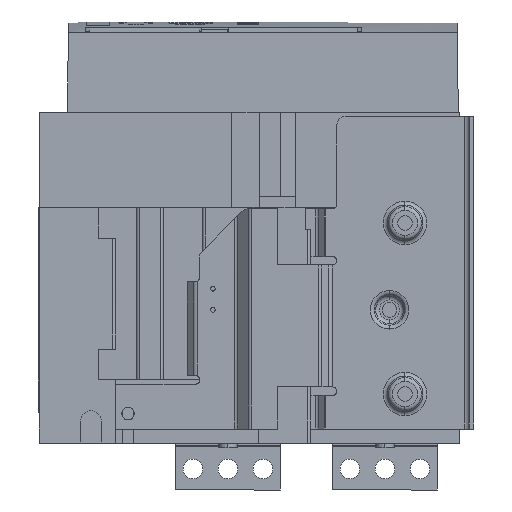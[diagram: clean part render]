
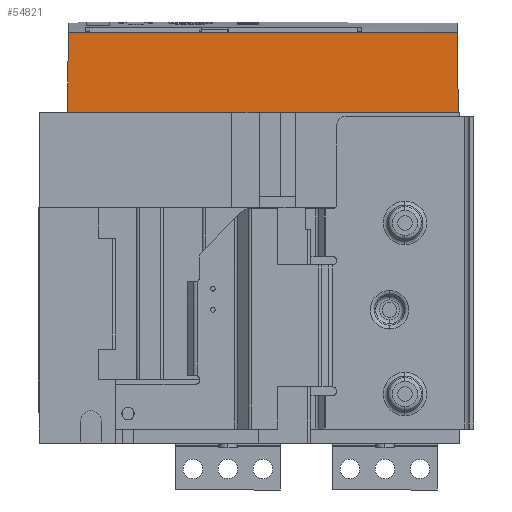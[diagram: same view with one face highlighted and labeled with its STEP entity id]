
A CAD part, left-side view. The second image highlights one B-rep face of the part: STEP entity #54821.
In plain terms, the highlighted planar face has unit normal (-1, 0, 0.014).
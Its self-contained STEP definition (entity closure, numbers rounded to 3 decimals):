
#1078 = DIRECTION ( 'NONE',  ( -0.014, 0.014, -1. ) ) ;
#1637 = CARTESIAN_POINT ( 'NONE',  ( -28.345, 72.376, 483.563 ) ) ;
#5340 = VERTEX_POINT ( 'NONE', #81602 ) ;
#5442 = EDGE_CURVE ( 'NONE', #91966, #21176, #126289, .T. ) ;
#8009 = CARTESIAN_POINT ( 'NONE',  ( -27.554, 72.376, 540.213 ) ) ;
#11194 = CARTESIAN_POINT ( 'NONE',  ( -29.295, 72.376, 415.563 ) ) ;
#12570 = VERTEX_POINT ( 'NONE', #76827 ) ;
#14415 = VECTOR ( 'NONE', #150699, 1000. ) ;
#15729 = ORIENTED_EDGE ( 'NONE', *, *, #99997, .T. ) ;
#17904 = LINE ( 'NONE', #1637, #153928 ) ;
#18831 = DIRECTION ( 'NONE',  ( -0.014, -0.014, -1. ) ) ;
#19138 = EDGE_CURVE ( 'NONE', #91966, #27333, #76573, .T. ) ;
#21176 = VERTEX_POINT ( 'NONE', #132271 ) ;
#21230 = ORIENTED_EDGE ( 'NONE', *, *, #139518, .T. ) ;
#21846 = CARTESIAN_POINT ( 'NONE',  ( -27.554, 351.436, 540.213 ) ) ;
#22533 = VERTEX_POINT ( 'NONE', #29678 ) ;
#22773 = ORIENTED_EDGE ( 'NONE', *, *, #93409, .F. ) ;
#24062 = LINE ( 'NONE', #54517, #74363 ) ;
#24182 = DIRECTION ( 'NONE',  ( 0., 1., 0. ) ) ;
#27333 = VERTEX_POINT ( 'NONE', #54313 ) ;
#27477 = EDGE_LOOP ( 'NONE', ( #43593, #139710, #105253, #81466, #149686, #21230, #22773, #15729, #45587, #85475 ) ) ;
#29678 = CARTESIAN_POINT ( 'NONE',  ( -28.345, 189.77, 483.563 ) ) ;
#32610 = PLANE ( 'NONE',  #106744 ) ;
#34169 = CARTESIAN_POINT ( 'NONE',  ( -29.295, 72.376, 415.563 ) ) ;
#41337 = DIRECTION ( 'NONE',  ( 0., -1., 0. ) ) ;
#43593 = ORIENTED_EDGE ( 'NONE', *, *, #19138, .T. ) ;
#44760 = EDGE_CURVE ( 'NONE', #22533, #71236, #24062, .T. ) ;
#45587 = ORIENTED_EDGE ( 'NONE', *, *, #152683, .T. ) ;
#46479 = FACE_OUTER_BOUND ( 'NONE', #27477, .T. ) ;
#51612 = VECTOR ( 'NONE', #91857, 1000. ) ;
#52850 = CARTESIAN_POINT ( 'NONE',  ( -29.267, 215.349, 417.559 ) ) ;
#53397 = LINE ( 'NONE', #66189, #14415 ) ;
#54313 = CARTESIAN_POINT ( 'NONE',  ( -28.443, 234.228, 476.563 ) ) ;
#54517 = CARTESIAN_POINT ( 'NONE',  ( -29.289, 189.379, 415.996 ) ) ;
#54821 = ADVANCED_FACE ( 'NONE', ( #46479 ), #32610, .T. ) ;
#57859 = VECTOR ( 'NONE', #18831, 1000. ) ;
#59969 = DIRECTION ( 'NONE',  ( -0.014, -0.014, -1. ) ) ;
#64093 = EDGE_CURVE ( 'NONE', #27333, #12570, #53397, .T. ) ;
#65355 = DIRECTION ( 'NONE',  ( -0.014, 0.014, -1. ) ) ;
#66189 = CARTESIAN_POINT ( 'NONE',  ( -28.443, 360.676, 476.563 ) ) ;
#67880 = LINE ( 'NONE', #52850, #153814 ) ;
#68929 = VECTOR ( 'NONE', #1078, 1000. ) ;
#71236 = VERTEX_POINT ( 'NONE', #134062 ) ;
#71753 = CARTESIAN_POINT ( 'NONE',  ( -29.24, 353.122, 419.482 ) ) ;
#72337 = CARTESIAN_POINT ( 'NONE',  ( -28.345, 234.326, 483.563 ) ) ;
#72696 = LINE ( 'NONE', #71753, #68929 ) ;
#74363 = VECTOR ( 'NONE', #89436, 1000. ) ;
#76573 = LINE ( 'NONE', #151123, #57859 ) ;
#76827 = CARTESIAN_POINT ( 'NONE',  ( -28.443, 214.525, 476.563 ) ) ;
#77283 = CARTESIAN_POINT ( 'NONE',  ( -28.345, 72.376, 483.563 ) ) ;
#80269 = DIRECTION ( 'NONE',  ( 0., 1., 0. ) ) ;
#81466 = ORIENTED_EDGE ( 'NONE', *, *, #136215, .F. ) ;
#81602 = CARTESIAN_POINT ( 'NONE',  ( -28.443, 73.228, 476.563 ) ) ;
#82717 = VERTEX_POINT ( 'NONE', #103612 ) ;
#85390 = VECTOR ( 'NONE', #59969, 1000. ) ;
#85475 = ORIENTED_EDGE ( 'NONE', *, *, #5442, .F. ) ;
#88612 = CARTESIAN_POINT ( 'NONE',  ( -28.443, 360.676, 476.563 ) ) ;
#89436 = DIRECTION ( 'NONE',  ( -0.014, -0.006, -1. ) ) ;
#90922 = EDGE_CURVE ( 'NONE', #108798, #12570, #67880, .T. ) ;
#91857 = DIRECTION ( 'NONE',  ( 0., 1., 0. ) ) ;
#91966 = VERTEX_POINT ( 'NONE', #72337 ) ;
#93409 = EDGE_CURVE ( 'NONE', #82717, #5340, #100325, .T. ) ;
#99997 = EDGE_CURVE ( 'NONE', #82717, #113357, #113497, .T. ) ;
#100325 = LINE ( 'NONE', #34169, #85390 ) ;
#103612 = CARTESIAN_POINT ( 'NONE',  ( -27.554, 74.117, 540.213 ) ) ;
#105253 = ORIENTED_EDGE ( 'NONE', *, *, #90922, .F. ) ;
#106744 = AXIS2_PLACEMENT_3D ( 'NONE', #11194, #118956, #24182 ) ;
#108005 = VECTOR ( 'NONE', #80269, 1000. ) ;
#108798 = VERTEX_POINT ( 'NONE', #121089 ) ;
#113357 = VERTEX_POINT ( 'NONE', #21846 ) ;
#113497 = LINE ( 'NONE', #8009, #108005 ) ;
#117418 = VECTOR ( 'NONE', #41337, 1000. ) ;
#118956 = DIRECTION ( 'NONE',  ( -1., 0., 0.014 ) ) ;
#121089 = CARTESIAN_POINT ( 'NONE',  ( -28.345, 214.427, 483.563 ) ) ;
#126289 = LINE ( 'NONE', #77283, #51612 ) ;
#126739 = LINE ( 'NONE', #88612, #117418 ) ;
#132271 = CARTESIAN_POINT ( 'NONE',  ( -28.345, 352.227, 483.563 ) ) ;
#132784 = DIRECTION ( 'NONE',  ( 0., 1., 0. ) ) ;
#134062 = CARTESIAN_POINT ( 'NONE',  ( -28.443, 189.729, 476.563 ) ) ;
#136215 = EDGE_CURVE ( 'NONE', #22533, #108798, #17904, .T. ) ;
#139518 = EDGE_CURVE ( 'NONE', #71236, #5340, #126739, .T. ) ;
#139710 = ORIENTED_EDGE ( 'NONE', *, *, #64093, .T. ) ;
#149686 = ORIENTED_EDGE ( 'NONE', *, *, #44760, .T. ) ;
#150699 = DIRECTION ( 'NONE',  ( 0., -1., 0. ) ) ;
#151123 = CARTESIAN_POINT ( 'NONE',  ( -29.326, 233.345, 413.316 ) ) ;
#152683 = EDGE_CURVE ( 'NONE', #113357, #21176, #72696, .T. ) ;
#153814 = VECTOR ( 'NONE', #65355, 1000. ) ;
#153928 = VECTOR ( 'NONE', #132784, 1000. ) ;
